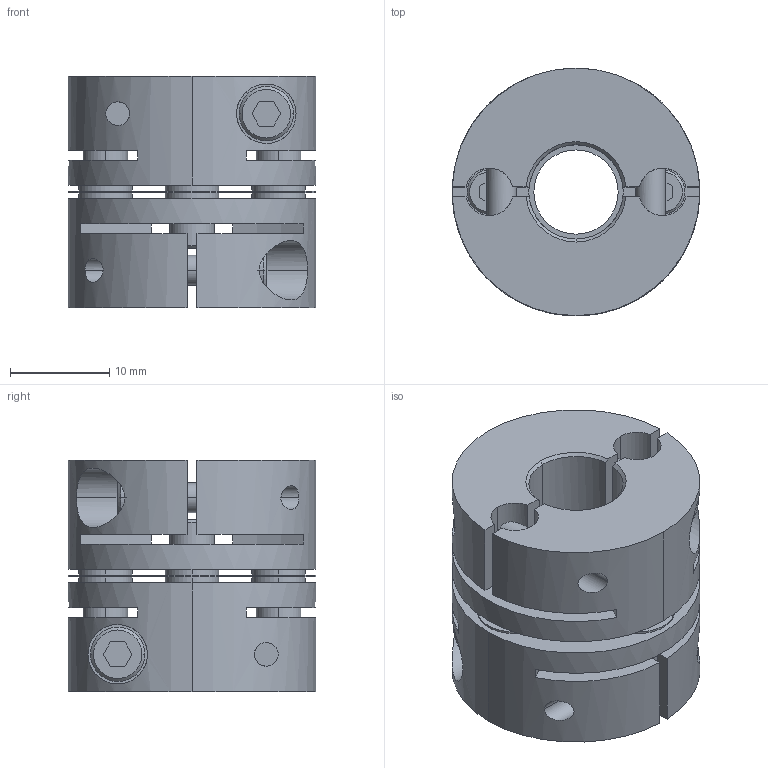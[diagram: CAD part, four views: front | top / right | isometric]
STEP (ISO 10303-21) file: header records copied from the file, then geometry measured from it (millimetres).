
FILE_DESCRIPTION((''),'2;1');
FILE_NAME('LAS-25C-9.525×9.525.stp','2011-08-10T10:29:55',(''),(''),'AutoCAD STEP 2000i','AutoCAD 2000i',', , ');
FILE_SCHEMA(('CONFIG_CONTROL_DESIGN'));
Length unit declared in the file: millimetre
Products named in the file (5): LAS-25C-6×6; 忣兜1; LA-2502-D06-1; LA-2502-D06; LAS25-ITA
Assembly tree (4 placements, depth 2):
  LAS-25C-6×6
    忣兜1
    LA-2502-D06-1
    LA-2502-D06
    LAS25-ITA
Bounding box: 25 x 25 x 23.4 mm (x, y, z)
Volume: 8021.6 mm3; surface area: 6768.3 mm2
Topology: 1 solids, 1 shells, 244 faces, 648 edges, 424 vertices
Faces by surface type: plane 112, cylinder 104, cone 28
Entity records: 8499 total; most frequent: CARTESIAN_POINT 2121, DIRECTION 1326, ORIENTED_EDGE 1296, EDGE_CURVE 648, AXIS2_PLACEMENT_3D 485, VERTEX_POINT 424, VECTOR 356, LINE 356
